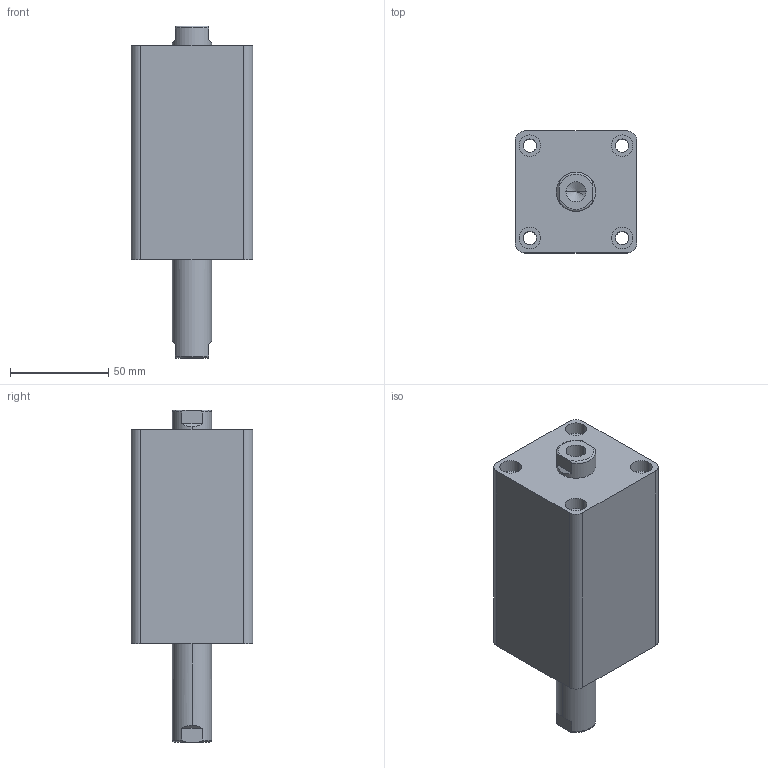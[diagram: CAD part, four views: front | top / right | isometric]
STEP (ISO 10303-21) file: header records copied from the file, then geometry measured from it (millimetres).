
FILE_DESCRIPTION (( 'STEP AP203' ), '1' );
FILE_NAME ('HTB-SW32-40N.STEP', '2019-10-07T08:52:52', ( '微软用户' ), ( '微软中国' ), 'SwSTEP 2.0', 'SolidWorks 2012', '' );
FILE_SCHEMA (( 'CONFIG_CONTROL_DESIGN' ));
Length unit declared in the file: millimetre
Products named in the file (3): HTB-SW32-40N; HTB-SW32-40N活塞杆; HTB-SW32-40掛极
Assembly tree (2 placements, depth 2):
  HTB-SW32-40N
    HTB-SW32-40掛极
    HTB-SW32-40N活塞杆
Bounding box: 62 x 62 x 169 mm (x, y, z)
Volume: 391859.5 mm3; surface area: 67298.4 mm2
Topology: 2 solids, 2 shells, 100 faces, 228 edges, 146 vertices
Faces by surface type: cylinder 48, plane 32, torus 12, cone 8
Entity records: 3237 total; most frequent: CARTESIAN_POINT 595, DIRECTION 542, ORIENTED_EDGE 448, AXIS2_PLACEMENT_3D 229, EDGE_CURVE 224, VERTEX_POINT 146, EDGE_LOOP 128, CIRCLE 124
